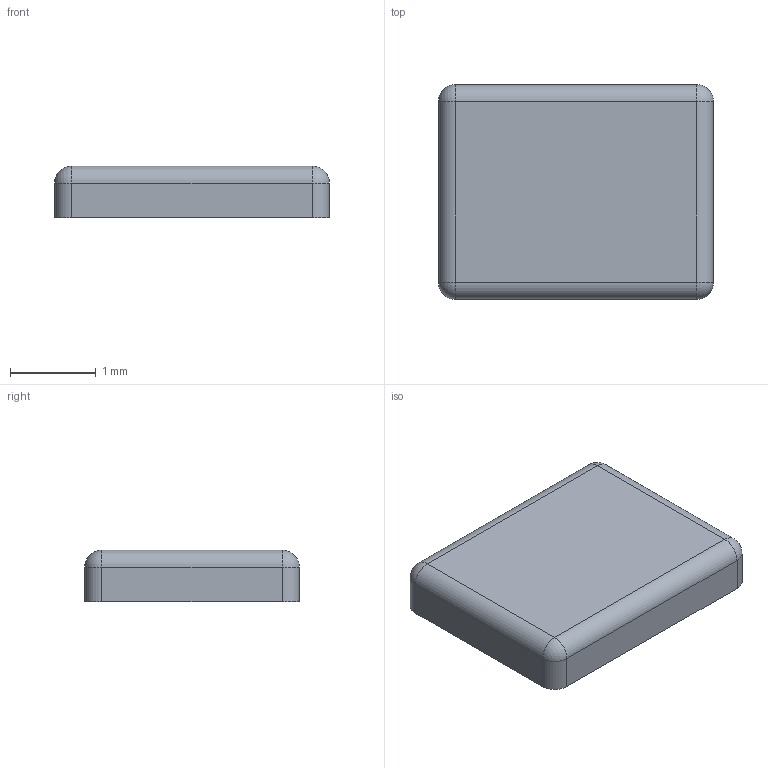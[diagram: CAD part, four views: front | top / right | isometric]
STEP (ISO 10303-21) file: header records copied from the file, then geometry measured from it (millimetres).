
FILE_DESCRIPTION(/* description */ ('STEP AP242 Edition 2','CAx-IF Rec.Pracs.---Representation and Presentation of Product Manufacturing Information (PMI)---4.0---2014-10-13','CAx-IF Rec.Pracs.---3D Tessellated Geometry---0.4---2014-09-14','2;1','CAx-IF Rec.Pracs.---User Defined Attributes---1.5---2016-08-15'),/* implementation_level */ '2;1');
FILE_NAME(/* name */ 'HIRO_Assembly - X1, X12M000000S096, 12 Mhz Crystal Resonator, Raspberry Pi Pico-R3',/* time_stamp */ '2026-11-04T05:23:30Z',/* author */ (''),/* organization */ (''),/* preprocessor_version */ 'ST-DEVELOPER v20',/* originating_system */ 'ONSHAPE BY PTC INC, 1.223',/* authorisation */ ' ');
FILE_SCHEMA (('AP242_MANAGED_MODEL_BASED_3D_ENGINEERING_MIM_LF { 1 0 10303 442 3 1 4 }'));
Length unit declared in the file: metre
Products named in the file (1): X1, X12M000000S096, 12 Mhz Crystal Resonator, Raspberry Pi Pico-R3
Bounding box: 3.2 x 2.5 x 0.6 mm (x, y, z)
Volume: 4.7 mm3; surface area: 21.6 mm2
Topology: 1 solids, 1 shells, 18 faces, 40 edges, 20 vertices
Faces by surface type: cylinder 8, plane 6, sphere 4
Entity records: 482 total; most frequent: DIRECTION 90, CARTESIAN_POINT 75, ORIENTED_EDGE 72, EDGE_CURVE 36, AXIS2_PLACEMENT_3D 35, LINE 20, VECTOR 20, VERTEX_POINT 20
